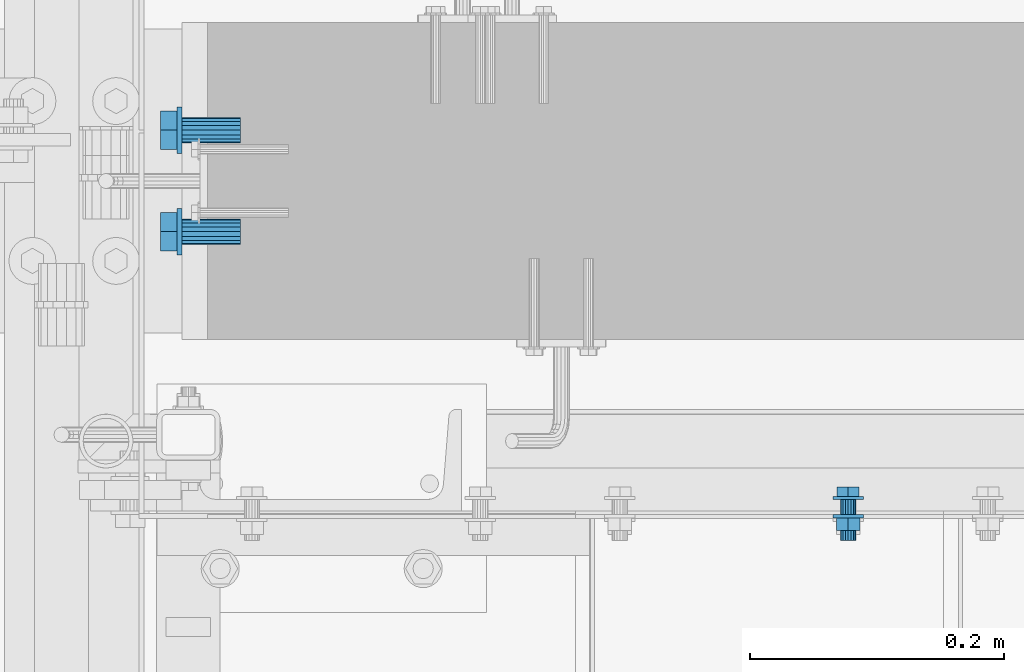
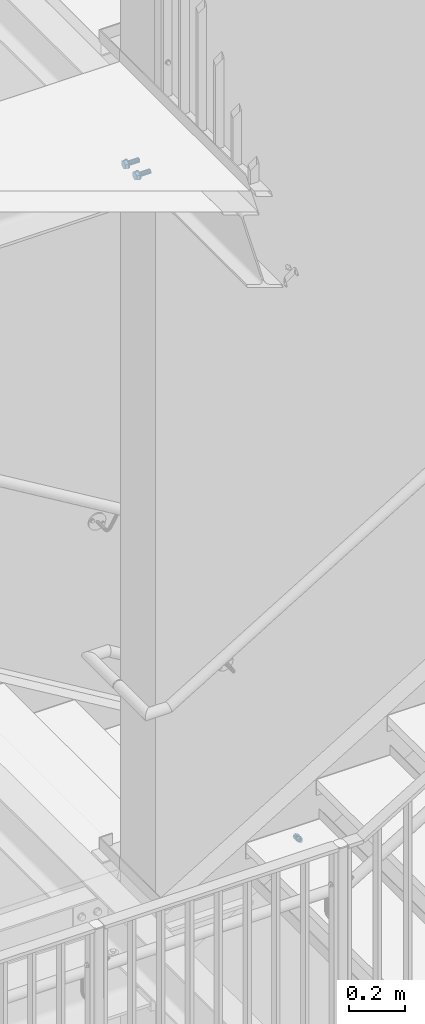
# One storey, part 223 of 410: 3 mechanical fasteners.
"""IFC2X3 building model written with IfcOpenShell, lengths in millimetres."""

from ifc_helpers import new_model, entity, si_unit, converted_unit, origin_with_axes, place, context, project, spatial, faceted_brep, element, save


model = new_model("IFC2X3")

# Units and contexts
model_context = context("Model", 3, precision=1e-09, world=origin_with_axes())
ifc_project = project(units=[si_unit("LENGTHUNIT", "METRE", prefix="MILLI"), si_unit("AREAUNIT", "SQUARE_METRE"), si_unit("VOLUMEUNIT", "CUBIC_METRE"), converted_unit("PLANEANGLEUNIT", "DEGREE", entity("IfcPlaneAngleMeasure", 0.01745329), si_unit("PLANEANGLEUNIT", "RADIAN"), dimensions=[0, 0, 0, 0, 0, 0, 0])], contexts=[model_context])

# Site, building, storey
site_placement = place(None, origin_with_axes())
site = spatial("IfcSite", under=ifc_project, at=site_placement, Name="mKR Teilneubau & Sanierung BA1 - Ostfildern", CompositionType="ELEMENT")
building_placement = place(site_placement, origin_with_axes())
building = spatial("IfcBuilding", under=site, at=building_placement, Name="Struktur 1", CompositionType="ELEMENT")
storey_placement = place(building_placement, origin_with_axes())
storey = spatial("IfcBuildingStorey", under=building, at=storey_placement, Name="Default Storey", CompositionType="ELEMENT", Elevation=0.0)

# Mechanical fasteners
mechanical_fastener_1_placement = place(None, origin_with_axes())
element("IfcMechanicalFastener", 1, at=mechanical_fastener_1_placement, inside=storey, ObjectType="Bolt", NominalDiameter=12.0, NominalLength=35.0, context=model_context, shape_type="Brep", body=[
    faceted_brep([(-1212.0, 16731.499999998, 4120.0), (-1212.0, 16728.999999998, 4120.0), (-1211.769423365, 16728.999999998, 4122.341083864), (-1211.769423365, 16731.499999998, 4122.341083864), (-1211.08655439, 16728.999999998, 4124.592201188), (-1211.08655439, 16731.499999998, 4124.592201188), (-1209.977635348, 16728.999999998, 4126.666842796), (-1209.977635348, 16731.499999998, 4126.666842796), (-1208.485281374, 16728.999999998, 4128.485281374), (-1208.485281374, 16731.499999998, 4128.485281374), (-1206.666842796, 16728.999999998, 4129.977635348), (-1206.666842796, 16731.499999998, 4129.977635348), (-1204.592201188, 16728.999999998, 4131.08655439), (-1204.592201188, 16731.499999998, 4131.08655439), (-1202.341083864, 16728.999999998, 4131.769423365), (-1202.341083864, 16731.499999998, 4131.769423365), (-1200.0, 16728.999999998, 4132.0), (-1200.0, 16731.499999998, 4132.0), (-1197.658916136, 16728.999999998, 4131.769423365), (-1197.658916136, 16731.499999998, 4131.769423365), (-1195.407798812, 16728.999999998, 4131.08655439), (-1195.407798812, 16731.499999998, 4131.08655439), (-1193.333157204, 16728.999999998, 4129.977635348), (-1193.333157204, 16731.499999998, 4129.977635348), (-1191.514718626, 16728.999999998, 4128.485281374), (-1191.514718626, 16731.499999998, 4128.485281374), (-1190.022364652, 16728.999999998, 4126.666842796), (-1190.022364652, 16731.499999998, 4126.666842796), (-1188.91344561, 16728.999999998, 4124.592201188), (-1188.91344561, 16731.499999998, 4124.592201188), (-1188.230576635, 16728.999999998, 4122.341083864), (-1188.230576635, 16731.499999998, 4122.341083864), (-1188.0, 16728.999999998, 4120.0), (-1188.0, 16731.499999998, 4120.0), (-1188.230576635, 16728.999999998, 4117.658916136), (-1188.230576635, 16731.499999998, 4117.658916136), (-1188.91344561, 16728.999999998, 4115.407798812), (-1188.91344561, 16731.499999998, 4115.407798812), (-1190.022364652, 16728.999999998, 4113.333157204), (-1190.022364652, 16731.499999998, 4113.333157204), (-1191.514718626, 16728.999999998, 4111.514718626), (-1191.514718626, 16731.499999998, 4111.514718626), (-1193.333157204, 16728.999999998, 4110.022364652), (-1193.333157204, 16731.499999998, 4110.022364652), (-1195.407798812, 16728.999999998, 4108.91344561), (-1195.407798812, 16731.499999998, 4108.91344561), (-1197.658916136, 16728.999999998, 4108.230576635), (-1197.658916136, 16731.499999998, 4108.230576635), (-1200.0, 16728.999999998, 4108.0), (-1200.0, 16731.499999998, 4108.0), (-1202.341083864, 16728.999999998, 4108.230576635), (-1202.341083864, 16731.499999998, 4108.230576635), (-1204.592201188, 16728.999999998, 4108.91344561), (-1204.592201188, 16731.499999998, 4108.91344561), (-1206.666842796, 16728.999999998, 4110.022364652), (-1206.666842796, 16731.499999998, 4110.022364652), (-1208.485281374, 16728.999999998, 4111.514718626), (-1208.485281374, 16731.499999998, 4111.514718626), (-1209.977635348, 16728.999999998, 4113.333157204), (-1209.977635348, 16731.499999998, 4113.333157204), (-1211.08655439, 16728.999999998, 4115.407798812), (-1211.08655439, 16731.499999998, 4115.407798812), (-1211.769423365, 16728.999999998, 4117.658916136), (-1211.769423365, 16731.499999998, 4117.658916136)], [[[0, 1, 2, 3]], [[3, 2, 4, 5]], [[5, 4, 6, 7]], [[7, 6, 8, 9]], [[9, 8, 10, 11]], [[11, 10, 12, 13]], [[13, 12, 14, 15]], [[15, 14, 16, 17]], [[17, 16, 18, 19]], [[19, 18, 20, 21]], [[21, 20, 22, 23]], [[23, 22, 24, 25]], [[25, 24, 26, 27]], [[27, 26, 28, 29]], [[29, 28, 30, 31]], [[31, 30, 32, 33]], [[33, 32, 34, 35]], [[35, 34, 36, 37]], [[37, 36, 38, 39]], [[39, 38, 40, 41]], [[41, 40, 42, 43]], [[43, 42, 44, 45]], [[45, 44, 46, 47]], [[47, 46, 48, 49]], [[49, 48, 50, 51]], [[51, 50, 52, 53]], [[53, 52, 54, 55]], [[55, 54, 56, 57]], [[57, 56, 58, 59]], [[59, 58, 60, 61]], [[61, 60, 62, 63]], [[63, 62, 1, 0]], [[0, 3, 5, 7, 9, 11, 13, 15, 17, 19, 21, 23, 25, 27, 29, 31, 33, 35, 37, 39, 41, 43, 45, 47, 49, 51, 53, 55, 57, 59, 61, 63]], [[1, 62, 60, 58, 56, 54, 52, 50, 48, 46, 44, 42, 40, 38, 36, 34, 32, 30, 28, 26, 24, 22, 20, 18, 16, 14, 12, 10, 8, 6, 4, 2]]]),
    faceted_brep([(-1191.326755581, 16731.499999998, 4125.0075), (-1191.326755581, 16738.999999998, 4125.0075), (-1200.0, 16738.999999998, 4130.015), (-1200.0, 16731.499999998, 4130.015), (-1208.673244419, 16738.999999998, 4125.0075), (-1208.673244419, 16731.499999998, 4125.0075), (-1208.673244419, 16738.999999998, 4114.9925), (-1208.673244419, 16731.499999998, 4114.9925), (-1200.0, 16738.999999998, 4109.985), (-1200.0, 16731.499999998, 4109.985), (-1191.326755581, 16738.999999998, 4114.9925), (-1191.326755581, 16731.499999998, 4114.9925)], [[[0, 1, 2, 3]], [[3, 2, 4, 5]], [[5, 4, 6, 7]], [[7, 6, 8, 9]], [[9, 8, 10, 11]], [[11, 10, 1, 0]], [[4, 2, 1, 10, 8, 6]], [[0, 3, 5, 7, 9, 11]]]),
    faceted_brep([(-1206.0, 16728.999999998, 4120.0), (-1206.0, 16716.999999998, 4120.0), (-1205.543277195, 16716.999999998, 4122.296100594), (-1205.543277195, 16728.999999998, 4122.296100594), (-1204.242640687, 16716.999999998, 4124.242640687), (-1204.242640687, 16728.999999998, 4124.242640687), (-1202.296100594, 16716.999999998, 4125.543277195), (-1202.296100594, 16728.999999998, 4125.543277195), (-1200.0, 16716.999999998, 4126.0), (-1200.0, 16728.999999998, 4126.0), (-1197.703899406, 16716.999999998, 4125.543277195), (-1197.703899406, 16728.999999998, 4125.543277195), (-1195.757359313, 16716.999999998, 4124.242640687), (-1195.757359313, 16728.999999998, 4124.242640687), (-1194.456722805, 16716.999999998, 4122.296100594), (-1194.456722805, 16728.999999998, 4122.296100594), (-1194.0, 16716.999999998, 4120.0), (-1194.0, 16728.999999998, 4120.0), (-1194.456722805, 16716.999999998, 4117.703899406), (-1194.456722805, 16728.999999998, 4117.703899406), (-1195.757359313, 16716.999999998, 4115.757359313), (-1195.757359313, 16728.999999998, 4115.757359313), (-1197.703899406, 16716.999999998, 4114.456722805), (-1197.703899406, 16728.999999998, 4114.456722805), (-1200.0, 16716.999999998, 4114.0), (-1200.0, 16728.999999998, 4114.0), (-1202.296100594, 16716.999999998, 4114.456722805), (-1202.296100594, 16728.999999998, 4114.456722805), (-1204.242640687, 16716.999999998, 4115.757359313), (-1204.242640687, 16728.999999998, 4115.757359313), (-1205.543277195, 16716.999999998, 4117.703899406), (-1205.543277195, 16728.999999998, 4117.703899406)], [[[0, 1, 2, 3]], [[3, 2, 4, 5]], [[5, 4, 6, 7]], [[7, 6, 8, 9]], [[9, 8, 10, 11]], [[11, 10, 12, 13]], [[13, 12, 14, 15]], [[15, 14, 16, 17]], [[17, 16, 18, 19]], [[19, 18, 20, 21]], [[21, 20, 22, 23]], [[23, 22, 24, 25]], [[25, 24, 26, 27]], [[27, 26, 28, 29]], [[29, 28, 30, 31]], [[31, 30, 1, 0]], [[0, 3, 5, 7, 9, 11, 13, 15, 17, 19, 21, 23, 25, 27, 29, 31]], [[1, 30, 28, 26, 24, 22, 20, 18, 16, 14, 12, 10, 8, 6, 4, 2]]]),
    faceted_brep([(-1212.0, 16716.999999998, 4120.0), (-1212.0, 16714.499999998, 4120.0), (-1211.769423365, 16714.499999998, 4122.341083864), (-1211.769423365, 16716.999999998, 4122.341083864), (-1211.08655439, 16714.499999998, 4124.592201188), (-1211.08655439, 16716.999999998, 4124.592201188), (-1209.977635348, 16714.499999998, 4126.666842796), (-1209.977635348, 16716.999999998, 4126.666842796), (-1208.485281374, 16714.499999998, 4128.485281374), (-1208.485281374, 16716.999999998, 4128.485281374), (-1206.666842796, 16714.499999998, 4129.977635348), (-1206.666842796, 16716.999999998, 4129.977635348), (-1204.592201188, 16714.499999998, 4131.08655439), (-1204.592201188, 16716.999999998, 4131.08655439), (-1202.341083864, 16714.499999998, 4131.769423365), (-1202.341083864, 16716.999999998, 4131.769423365), (-1200.0, 16714.499999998, 4132.0), (-1200.0, 16716.999999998, 4132.0), (-1197.658916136, 16714.499999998, 4131.769423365), (-1197.658916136, 16716.999999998, 4131.769423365), (-1195.407798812, 16714.499999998, 4131.08655439), (-1195.407798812, 16716.999999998, 4131.08655439), (-1193.333157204, 16714.499999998, 4129.977635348), (-1193.333157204, 16716.999999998, 4129.977635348), (-1191.514718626, 16714.499999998, 4128.485281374), (-1191.514718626, 16716.999999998, 4128.485281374), (-1190.022364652, 16714.499999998, 4126.666842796), (-1190.022364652, 16716.999999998, 4126.666842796), (-1188.91344561, 16714.499999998, 4124.592201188), (-1188.91344561, 16716.999999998, 4124.592201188), (-1188.230576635, 16714.499999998, 4122.341083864), (-1188.230576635, 16716.999999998, 4122.341083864), (-1188.0, 16714.499999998, 4120.0), (-1188.0, 16716.999999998, 4120.0), (-1188.230576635, 16714.499999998, 4117.658916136), (-1188.230576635, 16716.999999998, 4117.658916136), (-1188.91344561, 16714.499999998, 4115.407798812), (-1188.91344561, 16716.999999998, 4115.407798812), (-1190.022364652, 16714.499999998, 4113.333157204), (-1190.022364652, 16716.999999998, 4113.333157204), (-1191.514718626, 16714.499999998, 4111.514718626), (-1191.514718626, 16716.999999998, 4111.514718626), (-1193.333157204, 16714.499999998, 4110.022364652), (-1193.333157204, 16716.999999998, 4110.022364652), (-1195.407798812, 16714.499999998, 4108.91344561), (-1195.407798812, 16716.999999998, 4108.91344561), (-1197.658916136, 16714.499999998, 4108.230576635), (-1197.658916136, 16716.999999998, 4108.230576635), (-1200.0, 16714.499999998, 4108.0), (-1200.0, 16716.999999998, 4108.0), (-1202.341083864, 16714.499999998, 4108.230576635), (-1202.341083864, 16716.999999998, 4108.230576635), (-1204.592201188, 16714.499999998, 4108.91344561), (-1204.592201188, 16716.999999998, 4108.91344561), (-1206.666842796, 16714.499999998, 4110.022364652), (-1206.666842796, 16716.999999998, 4110.022364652), (-1208.485281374, 16714.499999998, 4111.514718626), (-1208.485281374, 16716.999999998, 4111.514718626), (-1209.977635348, 16714.499999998, 4113.333157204), (-1209.977635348, 16716.999999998, 4113.333157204), (-1211.08655439, 16714.499999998, 4115.407798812), (-1211.08655439, 16716.999999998, 4115.407798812), (-1211.769423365, 16714.499999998, 4117.658916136), (-1211.769423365, 16716.999999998, 4117.658916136)], [[[0, 1, 2, 3]], [[3, 2, 4, 5]], [[5, 4, 6, 7]], [[7, 6, 8, 9]], [[9, 8, 10, 11]], [[11, 10, 12, 13]], [[13, 12, 14, 15]], [[15, 14, 16, 17]], [[17, 16, 18, 19]], [[19, 18, 20, 21]], [[21, 20, 22, 23]], [[23, 22, 24, 25]], [[25, 24, 26, 27]], [[27, 26, 28, 29]], [[29, 28, 30, 31]], [[31, 30, 32, 33]], [[33, 32, 34, 35]], [[35, 34, 36, 37]], [[37, 36, 38, 39]], [[39, 38, 40, 41]], [[41, 40, 42, 43]], [[43, 42, 44, 45]], [[45, 44, 46, 47]], [[47, 46, 48, 49]], [[49, 48, 50, 51]], [[51, 50, 52, 53]], [[53, 52, 54, 55]], [[55, 54, 56, 57]], [[57, 56, 58, 59]], [[59, 58, 60, 61]], [[61, 60, 62, 63]], [[63, 62, 1, 0]], [[0, 3, 5, 7, 9, 11, 13, 15, 17, 19, 21, 23, 25, 27, 29, 31, 33, 35, 37, 39, 41, 43, 45, 47, 49, 51, 53, 55, 57, 59, 61, 63]], [[1, 62, 60, 58, 56, 54, 52, 50, 48, 46, 44, 42, 40, 38, 36, 34, 32, 30, 28, 26, 24, 22, 20, 18, 16, 14, 12, 10, 8, 6, 4, 2]]]),
    faceted_brep([(-1190.86343199, 16704.499999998, 4125.275), (-1190.86343199, 16714.499999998, 4125.275), (-1200.0, 16714.499999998, 4130.55), (-1200.0, 16704.499999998, 4130.55), (-1209.13656801, 16714.499999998, 4125.275), (-1209.13656801, 16704.499999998, 4125.275), (-1209.13656801, 16714.499999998, 4114.725), (-1209.13656801, 16704.499999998, 4114.725), (-1200.0, 16714.499999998, 4109.45), (-1200.0, 16704.499999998, 4109.45), (-1190.86343199, 16714.499999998, 4114.725), (-1190.86343199, 16704.499999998, 4114.725)], [[[0, 1, 2, 3]], [[3, 2, 4, 5]], [[5, 4, 6, 7]], [[7, 6, 8, 9]], [[9, 8, 10, 11]], [[11, 10, 1, 0]], [[4, 2, 1, 10, 8, 6]], [[0, 3, 5, 7, 9, 11]]]),
    faceted_brep([(-1206.0, 16704.499999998, 4120.0), (-1206.0, 16696.499999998, 4120.0), (-1205.543277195, 16696.499999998, 4122.296100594), (-1205.543277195, 16704.499999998, 4122.296100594), (-1204.242640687, 16696.499999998, 4124.242640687), (-1204.242640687, 16704.499999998, 4124.242640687), (-1202.296100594, 16696.499999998, 4125.543277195), (-1202.296100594, 16704.499999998, 4125.543277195), (-1200.0, 16696.499999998, 4126.0), (-1200.0, 16704.499999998, 4126.0), (-1197.703899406, 16696.499999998, 4125.543277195), (-1197.703899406, 16704.499999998, 4125.543277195), (-1195.757359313, 16696.499999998, 4124.242640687), (-1195.757359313, 16704.499999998, 4124.242640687), (-1194.456722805, 16696.499999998, 4122.296100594), (-1194.456722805, 16704.499999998, 4122.296100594), (-1194.0, 16696.499999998, 4120.0), (-1194.0, 16704.499999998, 4120.0), (-1194.456722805, 16696.499999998, 4117.703899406), (-1194.456722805, 16704.499999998, 4117.703899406), (-1195.757359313, 16696.499999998, 4115.757359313), (-1195.757359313, 16704.499999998, 4115.757359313), (-1197.703899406, 16696.499999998, 4114.456722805), (-1197.703899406, 16704.499999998, 4114.456722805), (-1200.0, 16696.499999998, 4114.0), (-1200.0, 16704.499999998, 4114.0), (-1202.296100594, 16696.499999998, 4114.456722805), (-1202.296100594, 16704.499999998, 4114.456722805), (-1204.242640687, 16696.499999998, 4115.757359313), (-1204.242640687, 16704.499999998, 4115.757359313), (-1205.543277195, 16696.499999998, 4117.703899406), (-1205.543277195, 16704.499999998, 4117.703899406)], [[[0, 1, 2, 3]], [[3, 2, 4, 5]], [[5, 4, 6, 7]], [[7, 6, 8, 9]], [[9, 8, 10, 11]], [[11, 10, 12, 13]], [[13, 12, 14, 15]], [[15, 14, 16, 17]], [[17, 16, 18, 19]], [[19, 18, 20, 21]], [[21, 20, 22, 23]], [[23, 22, 24, 25]], [[25, 24, 26, 27]], [[27, 26, 28, 29]], [[29, 28, 30, 31]], [[31, 30, 1, 0]], [[0, 3, 5, 7, 9, 11, 13, 15, 17, 19, 21, 23, 25, 27, 29, 31]], [[1, 30, 28, 26, 24, 22, 20, 18, 16, 14, 12, 10, 8, 6, 4, 2]]]),
])
mechanical_fastener_2_placement = place(None, origin_with_axes())
element("IfcMechanicalFastener", 2, at=mechanical_fastener_2_placement, inside=storey, ObjectType="-", NominalDiameter=20.0, NominalLength=50.0, context=model_context, shape_type="Brep", body=[
    faceted_brep([(-1729.0, 17038.5, 7045.0), (-1725.0, 17038.5, 7045.0), (-1725.0, 17038.144527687, 7041.390829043), (-1729.0, 17038.144527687, 7041.390829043), (-1725.0, 17037.091771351, 7037.920356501), (-1729.0, 17037.091771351, 7037.920356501), (-1725.0, 17035.382187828, 7034.721950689), (-1729.0, 17035.382187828, 7034.721950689), (-1725.0, 17033.081475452, 7031.918524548), (-1729.0, 17033.081475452, 7031.918524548), (-1725.0, 17030.278049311, 7029.617812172), (-1729.0, 17030.278049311, 7029.617812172), (-1725.0, 17027.079643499, 7027.908228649), (-1729.0, 17027.079643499, 7027.908228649), (-1725.0, 17023.609170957, 7026.855472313), (-1729.0, 17023.609170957, 7026.855472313), (-1725.0, 17020.0, 7026.5), (-1729.0, 17020.0, 7026.5), (-1725.0, 17016.390829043, 7026.855472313), (-1729.0, 17016.390829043, 7026.855472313), (-1725.0, 17012.920356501, 7027.908228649), (-1729.0, 17012.920356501, 7027.908228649), (-1725.0, 17009.721950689, 7029.617812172), (-1729.0, 17009.721950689, 7029.617812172), (-1725.0, 17006.918524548, 7031.918524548), (-1729.0, 17006.918524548, 7031.918524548), (-1725.0, 17004.617812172, 7034.721950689), (-1729.0, 17004.617812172, 7034.721950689), (-1725.0, 17002.908228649, 7037.920356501), (-1729.0, 17002.908228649, 7037.920356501), (-1725.0, 17001.855472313, 7041.390829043), (-1729.0, 17001.855472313, 7041.390829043), (-1725.0, 17001.5, 7045.0), (-1729.0, 17001.5, 7045.0), (-1725.0, 17001.855472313, 7048.609170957), (-1729.0, 17001.855472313, 7048.609170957), (-1725.0, 17002.908228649, 7052.079643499), (-1729.0, 17002.908228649, 7052.079643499), (-1725.0, 17004.617812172, 7055.278049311), (-1729.0, 17004.617812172, 7055.278049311), (-1725.0, 17006.918524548, 7058.081475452), (-1729.0, 17006.918524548, 7058.081475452), (-1725.0, 17009.721950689, 7060.382187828), (-1729.0, 17009.721950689, 7060.382187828), (-1725.0, 17012.920356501, 7062.091771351), (-1729.0, 17012.920356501, 7062.091771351), (-1725.0, 17016.390829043, 7063.144527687), (-1729.0, 17016.390829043, 7063.144527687), (-1725.0, 17020.0, 7063.5), (-1729.0, 17020.0, 7063.5), (-1725.0, 17023.609170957, 7063.144527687), (-1729.0, 17023.609170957, 7063.144527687), (-1725.0, 17027.079643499, 7062.091771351), (-1729.0, 17027.079643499, 7062.091771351), (-1725.0, 17030.278049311, 7060.382187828), (-1729.0, 17030.278049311, 7060.382187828), (-1725.0, 17033.081475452, 7058.081475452), (-1729.0, 17033.081475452, 7058.081475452), (-1725.0, 17035.382187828, 7055.278049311), (-1729.0, 17035.382187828, 7055.278049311), (-1725.0, 17037.091771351, 7052.079643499), (-1729.0, 17037.091771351, 7052.079643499), (-1725.0, 17038.144527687, 7048.609170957), (-1729.0, 17038.144527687, 7048.609170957)], [[[0, 1, 2, 3]], [[3, 2, 4, 5]], [[5, 4, 6, 7]], [[7, 6, 8, 9]], [[9, 8, 10, 11]], [[11, 10, 12, 13]], [[13, 12, 14, 15]], [[15, 14, 16, 17]], [[17, 16, 18, 19]], [[19, 18, 20, 21]], [[21, 20, 22, 23]], [[23, 22, 24, 25]], [[25, 24, 26, 27]], [[27, 26, 28, 29]], [[29, 28, 30, 31]], [[31, 30, 32, 33]], [[33, 32, 34, 35]], [[35, 34, 36, 37]], [[37, 36, 38, 39]], [[39, 38, 40, 41]], [[41, 40, 42, 43]], [[43, 42, 44, 45]], [[45, 44, 46, 47]], [[47, 46, 48, 49]], [[49, 48, 50, 51]], [[51, 50, 52, 53]], [[53, 52, 54, 55]], [[55, 54, 56, 57]], [[57, 56, 58, 59]], [[59, 58, 60, 61]], [[61, 60, 62, 63]], [[63, 62, 1, 0]], [[0, 3, 5, 7, 9, 11, 13, 15, 17, 19, 21, 23, 25, 27, 29, 31, 33, 35, 37, 39, 41, 43, 45, 47, 49, 51, 53, 55, 57, 59, 61, 63]], [[1, 62, 60, 58, 56, 54, 52, 50, 48, 46, 44, 42, 40, 38, 36, 34, 32, 30, 28, 26, 24, 22, 20, 18, 16, 14, 12, 10, 8, 6, 4, 2]]]),
    faceted_brep([(-1729.0, 17004.831565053, 7036.2425), (-1742.0, 17004.831565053, 7036.2425), (-1742.0, 17020.0, 7027.485), (-1729.0, 17020.0, 7027.485), (-1742.0, 17035.168434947, 7036.2425), (-1729.0, 17035.168434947, 7036.2425), (-1742.0, 17035.168434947, 7053.7575), (-1729.0, 17035.168434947, 7053.7575), (-1742.0, 17020.0, 7062.515), (-1729.0, 17020.0, 7062.515), (-1742.0, 17004.831565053, 7053.7575), (-1729.0, 17004.831565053, 7053.7575)], [[[0, 1, 2, 3]], [[3, 2, 4, 5]], [[5, 4, 6, 7]], [[7, 6, 8, 9]], [[9, 8, 10, 11]], [[11, 10, 1, 0]], [[4, 2, 1, 10, 8, 6]], [[0, 3, 5, 7, 9, 11]]]),
    faceted_brep([(-1725.0, 17030.0, 7045.0), (-1705.0, 17030.0, 7045.0), (-1705.0, 17029.238795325, 7041.173165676), (-1725.0, 17029.238795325, 7041.173165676), (-1705.0, 17027.071067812, 7037.928932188), (-1725.0, 17027.071067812, 7037.928932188), (-1705.0, 17023.826834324, 7035.761204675), (-1725.0, 17023.826834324, 7035.761204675), (-1705.0, 17020.0, 7035.0), (-1725.0, 17020.0, 7035.0), (-1705.0, 17016.173165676, 7035.761204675), (-1725.0, 17016.173165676, 7035.761204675), (-1705.0, 17012.928932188, 7037.928932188), (-1725.0, 17012.928932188, 7037.928932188), (-1705.0, 17010.761204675, 7041.173165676), (-1725.0, 17010.761204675, 7041.173165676), (-1705.0, 17010.0, 7045.0), (-1725.0, 17010.0, 7045.0), (-1705.0, 17010.761204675, 7048.826834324), (-1725.0, 17010.761204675, 7048.826834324), (-1705.0, 17012.928932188, 7052.071067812), (-1725.0, 17012.928932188, 7052.071067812), (-1705.0, 17016.173165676, 7054.238795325), (-1725.0, 17016.173165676, 7054.238795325), (-1705.0, 17020.0, 7055.0), (-1725.0, 17020.0, 7055.0), (-1705.0, 17023.826834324, 7054.238795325), (-1725.0, 17023.826834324, 7054.238795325), (-1705.0, 17027.071067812, 7052.071067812), (-1725.0, 17027.071067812, 7052.071067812), (-1705.0, 17029.238795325, 7048.826834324), (-1725.0, 17029.238795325, 7048.826834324)], [[[0, 1, 2, 3]], [[3, 2, 4, 5]], [[5, 4, 6, 7]], [[7, 6, 8, 9]], [[9, 8, 10, 11]], [[11, 10, 12, 13]], [[13, 12, 14, 15]], [[15, 14, 16, 17]], [[17, 16, 18, 19]], [[19, 18, 20, 21]], [[21, 20, 22, 23]], [[23, 22, 24, 25]], [[25, 24, 26, 27]], [[27, 26, 28, 29]], [[29, 28, 30, 31]], [[31, 30, 1, 0]], [[0, 3, 5, 7, 9, 11, 13, 15, 17, 19, 21, 23, 25, 27, 29, 31]], [[1, 30, 28, 26, 24, 22, 20, 18, 16, 14, 12, 10, 8, 6, 4, 2]]]),
    faceted_brep([(-1705.0, 17030.0, 7045.0), (-1679.0, 17030.0, 7045.0), (-1679.0, 17029.238795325, 7041.173165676), (-1705.0, 17029.238795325, 7041.173165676), (-1679.0, 17027.071067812, 7037.928932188), (-1705.0, 17027.071067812, 7037.928932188), (-1679.0, 17023.826834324, 7035.761204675), (-1705.0, 17023.826834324, 7035.761204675), (-1679.0, 17020.0, 7035.0), (-1705.0, 17020.0, 7035.0), (-1679.0, 17016.173165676, 7035.761204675), (-1705.0, 17016.173165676, 7035.761204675), (-1679.0, 17012.928932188, 7037.928932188), (-1705.0, 17012.928932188, 7037.928932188), (-1679.0, 17010.761204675, 7041.173165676), (-1705.0, 17010.761204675, 7041.173165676), (-1679.0, 17010.0, 7045.0), (-1705.0, 17010.0, 7045.0), (-1679.0, 17010.761204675, 7048.826834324), (-1705.0, 17010.761204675, 7048.826834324), (-1679.0, 17012.928932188, 7052.071067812), (-1705.0, 17012.928932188, 7052.071067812), (-1679.0, 17016.173165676, 7054.238795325), (-1705.0, 17016.173165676, 7054.238795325), (-1679.0, 17020.0, 7055.0), (-1705.0, 17020.0, 7055.0), (-1679.0, 17023.826834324, 7054.238795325), (-1705.0, 17023.826834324, 7054.238795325), (-1679.0, 17027.071067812, 7052.071067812), (-1705.0, 17027.071067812, 7052.071067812), (-1679.0, 17029.238795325, 7048.826834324), (-1705.0, 17029.238795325, 7048.826834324)], [[[0, 1, 2, 3]], [[3, 2, 4, 5]], [[5, 4, 6, 7]], [[7, 6, 8, 9]], [[9, 8, 10, 11]], [[11, 10, 12, 13]], [[13, 12, 14, 15]], [[15, 14, 16, 17]], [[17, 16, 18, 19]], [[19, 18, 20, 21]], [[21, 20, 22, 23]], [[23, 22, 24, 25]], [[25, 24, 26, 27]], [[27, 26, 28, 29]], [[29, 28, 30, 31]], [[31, 30, 1, 0]], [[0, 3, 5, 7, 9, 11, 13, 15, 17, 19, 21, 23, 25, 27, 29, 31]], [[1, 30, 28, 26, 24, 22, 20, 18, 16, 14, 12, 10, 8, 6, 4, 2]]]),
])
mechanical_fastener_3_placement = place(None, origin_with_axes())
element("IfcMechanicalFastener", 3, at=mechanical_fastener_3_placement, inside=storey, ObjectType="-", NominalDiameter=20.0, NominalLength=50.0, context=model_context, shape_type="Brep", body=[
    faceted_brep([(-1729.0, 16958.5, 7045.0), (-1725.0, 16958.5, 7045.0), (-1725.0, 16958.144527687, 7041.390829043), (-1729.0, 16958.144527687, 7041.390829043), (-1725.0, 16957.091771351, 7037.920356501), (-1729.0, 16957.091771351, 7037.920356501), (-1725.0, 16955.382187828, 7034.721950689), (-1729.0, 16955.382187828, 7034.721950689), (-1725.0, 16953.081475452, 7031.918524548), (-1729.0, 16953.081475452, 7031.918524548), (-1725.0, 16950.278049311, 7029.617812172), (-1729.0, 16950.278049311, 7029.617812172), (-1725.0, 16947.079643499, 7027.908228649), (-1729.0, 16947.079643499, 7027.908228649), (-1725.0, 16943.609170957, 7026.855472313), (-1729.0, 16943.609170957, 7026.855472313), (-1725.0, 16940.0, 7026.5), (-1729.0, 16940.0, 7026.5), (-1725.0, 16936.390829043, 7026.855472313), (-1729.0, 16936.390829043, 7026.855472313), (-1725.0, 16932.920356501, 7027.908228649), (-1729.0, 16932.920356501, 7027.908228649), (-1725.0, 16929.721950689, 7029.617812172), (-1729.0, 16929.721950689, 7029.617812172), (-1725.0, 16926.918524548, 7031.918524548), (-1729.0, 16926.918524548, 7031.918524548), (-1725.0, 16924.617812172, 7034.721950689), (-1729.0, 16924.617812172, 7034.721950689), (-1725.0, 16922.908228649, 7037.920356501), (-1729.0, 16922.908228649, 7037.920356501), (-1725.0, 16921.855472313, 7041.390829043), (-1729.0, 16921.855472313, 7041.390829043), (-1725.0, 16921.5, 7045.0), (-1729.0, 16921.5, 7045.0), (-1725.0, 16921.855472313, 7048.609170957), (-1729.0, 16921.855472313, 7048.609170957), (-1725.0, 16922.908228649, 7052.079643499), (-1729.0, 16922.908228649, 7052.079643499), (-1725.0, 16924.617812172, 7055.278049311), (-1729.0, 16924.617812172, 7055.278049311), (-1725.0, 16926.918524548, 7058.081475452), (-1729.0, 16926.918524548, 7058.081475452), (-1725.0, 16929.721950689, 7060.382187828), (-1729.0, 16929.721950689, 7060.382187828), (-1725.0, 16932.920356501, 7062.091771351), (-1729.0, 16932.920356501, 7062.091771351), (-1725.0, 16936.390829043, 7063.144527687), (-1729.0, 16936.390829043, 7063.144527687), (-1725.0, 16940.0, 7063.5), (-1729.0, 16940.0, 7063.5), (-1725.0, 16943.609170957, 7063.144527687), (-1729.0, 16943.609170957, 7063.144527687), (-1725.0, 16947.079643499, 7062.091771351), (-1729.0, 16947.079643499, 7062.091771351), (-1725.0, 16950.278049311, 7060.382187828), (-1729.0, 16950.278049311, 7060.382187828), (-1725.0, 16953.081475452, 7058.081475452), (-1729.0, 16953.081475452, 7058.081475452), (-1725.0, 16955.382187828, 7055.278049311), (-1729.0, 16955.382187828, 7055.278049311), (-1725.0, 16957.091771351, 7052.079643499), (-1729.0, 16957.091771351, 7052.079643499), (-1725.0, 16958.144527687, 7048.609170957), (-1729.0, 16958.144527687, 7048.609170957)], [[[0, 1, 2, 3]], [[3, 2, 4, 5]], [[5, 4, 6, 7]], [[7, 6, 8, 9]], [[9, 8, 10, 11]], [[11, 10, 12, 13]], [[13, 12, 14, 15]], [[15, 14, 16, 17]], [[17, 16, 18, 19]], [[19, 18, 20, 21]], [[21, 20, 22, 23]], [[23, 22, 24, 25]], [[25, 24, 26, 27]], [[27, 26, 28, 29]], [[29, 28, 30, 31]], [[31, 30, 32, 33]], [[33, 32, 34, 35]], [[35, 34, 36, 37]], [[37, 36, 38, 39]], [[39, 38, 40, 41]], [[41, 40, 42, 43]], [[43, 42, 44, 45]], [[45, 44, 46, 47]], [[47, 46, 48, 49]], [[49, 48, 50, 51]], [[51, 50, 52, 53]], [[53, 52, 54, 55]], [[55, 54, 56, 57]], [[57, 56, 58, 59]], [[59, 58, 60, 61]], [[61, 60, 62, 63]], [[63, 62, 1, 0]], [[0, 3, 5, 7, 9, 11, 13, 15, 17, 19, 21, 23, 25, 27, 29, 31, 33, 35, 37, 39, 41, 43, 45, 47, 49, 51, 53, 55, 57, 59, 61, 63]], [[1, 62, 60, 58, 56, 54, 52, 50, 48, 46, 44, 42, 40, 38, 36, 34, 32, 30, 28, 26, 24, 22, 20, 18, 16, 14, 12, 10, 8, 6, 4, 2]]]),
    faceted_brep([(-1729.0, 16924.831565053, 7036.2425), (-1742.0, 16924.831565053, 7036.2425), (-1742.0, 16940.0, 7027.485), (-1729.0, 16940.0, 7027.485), (-1742.0, 16955.168434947, 7036.2425), (-1729.0, 16955.168434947, 7036.2425), (-1742.0, 16955.168434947, 7053.7575), (-1729.0, 16955.168434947, 7053.7575), (-1742.0, 16940.0, 7062.515), (-1729.0, 16940.0, 7062.515), (-1742.0, 16924.831565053, 7053.7575), (-1729.0, 16924.831565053, 7053.7575)], [[[0, 1, 2, 3]], [[3, 2, 4, 5]], [[5, 4, 6, 7]], [[7, 6, 8, 9]], [[9, 8, 10, 11]], [[11, 10, 1, 0]], [[4, 2, 1, 10, 8, 6]], [[0, 3, 5, 7, 9, 11]]]),
    faceted_brep([(-1725.0, 16950.0, 7045.0), (-1705.0, 16950.0, 7045.0), (-1705.0, 16949.238795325, 7041.173165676), (-1725.0, 16949.238795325, 7041.173165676), (-1705.0, 16947.071067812, 7037.928932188), (-1725.0, 16947.071067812, 7037.928932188), (-1705.0, 16943.826834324, 7035.761204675), (-1725.0, 16943.826834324, 7035.761204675), (-1705.0, 16940.0, 7035.0), (-1725.0, 16940.0, 7035.0), (-1705.0, 16936.173165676, 7035.761204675), (-1725.0, 16936.173165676, 7035.761204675), (-1705.0, 16932.928932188, 7037.928932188), (-1725.0, 16932.928932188, 7037.928932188), (-1705.0, 16930.761204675, 7041.173165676), (-1725.0, 16930.761204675, 7041.173165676), (-1705.0, 16930.0, 7045.0), (-1725.0, 16930.0, 7045.0), (-1705.0, 16930.761204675, 7048.826834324), (-1725.0, 16930.761204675, 7048.826834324), (-1705.0, 16932.928932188, 7052.071067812), (-1725.0, 16932.928932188, 7052.071067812), (-1705.0, 16936.173165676, 7054.238795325), (-1725.0, 16936.173165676, 7054.238795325), (-1705.0, 16940.0, 7055.0), (-1725.0, 16940.0, 7055.0), (-1705.0, 16943.826834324, 7054.238795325), (-1725.0, 16943.826834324, 7054.238795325), (-1705.0, 16947.071067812, 7052.071067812), (-1725.0, 16947.071067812, 7052.071067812), (-1705.0, 16949.238795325, 7048.826834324), (-1725.0, 16949.238795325, 7048.826834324)], [[[0, 1, 2, 3]], [[3, 2, 4, 5]], [[5, 4, 6, 7]], [[7, 6, 8, 9]], [[9, 8, 10, 11]], [[11, 10, 12, 13]], [[13, 12, 14, 15]], [[15, 14, 16, 17]], [[17, 16, 18, 19]], [[19, 18, 20, 21]], [[21, 20, 22, 23]], [[23, 22, 24, 25]], [[25, 24, 26, 27]], [[27, 26, 28, 29]], [[29, 28, 30, 31]], [[31, 30, 1, 0]], [[0, 3, 5, 7, 9, 11, 13, 15, 17, 19, 21, 23, 25, 27, 29, 31]], [[1, 30, 28, 26, 24, 22, 20, 18, 16, 14, 12, 10, 8, 6, 4, 2]]]),
    faceted_brep([(-1705.0, 16950.0, 7045.0), (-1679.0, 16950.0, 7045.0), (-1679.0, 16949.238795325, 7041.173165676), (-1705.0, 16949.238795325, 7041.173165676), (-1679.0, 16947.071067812, 7037.928932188), (-1705.0, 16947.071067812, 7037.928932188), (-1679.0, 16943.826834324, 7035.761204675), (-1705.0, 16943.826834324, 7035.761204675), (-1679.0, 16940.0, 7035.0), (-1705.0, 16940.0, 7035.0), (-1679.0, 16936.173165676, 7035.761204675), (-1705.0, 16936.173165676, 7035.761204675), (-1679.0, 16932.928932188, 7037.928932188), (-1705.0, 16932.928932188, 7037.928932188), (-1679.0, 16930.761204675, 7041.173165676), (-1705.0, 16930.761204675, 7041.173165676), (-1679.0, 16930.0, 7045.0), (-1705.0, 16930.0, 7045.0), (-1679.0, 16930.761204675, 7048.826834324), (-1705.0, 16930.761204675, 7048.826834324), (-1679.0, 16932.928932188, 7052.071067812), (-1705.0, 16932.928932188, 7052.071067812), (-1679.0, 16936.173165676, 7054.238795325), (-1705.0, 16936.173165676, 7054.238795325), (-1679.0, 16940.0, 7055.0), (-1705.0, 16940.0, 7055.0), (-1679.0, 16943.826834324, 7054.238795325), (-1705.0, 16943.826834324, 7054.238795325), (-1679.0, 16947.071067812, 7052.071067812), (-1705.0, 16947.071067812, 7052.071067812), (-1679.0, 16949.238795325, 7048.826834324), (-1705.0, 16949.238795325, 7048.826834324)], [[[0, 1, 2, 3]], [[3, 2, 4, 5]], [[5, 4, 6, 7]], [[7, 6, 8, 9]], [[9, 8, 10, 11]], [[11, 10, 12, 13]], [[13, 12, 14, 15]], [[15, 14, 16, 17]], [[17, 16, 18, 19]], [[19, 18, 20, 21]], [[21, 20, 22, 23]], [[23, 22, 24, 25]], [[25, 24, 26, 27]], [[27, 26, 28, 29]], [[29, 28, 30, 31]], [[31, 30, 1, 0]], [[0, 3, 5, 7, 9, 11, 13, 15, 17, 19, 21, 23, 25, 27, 29, 31]], [[1, 30, 28, 26, 24, 22, 20, 18, 16, 14, 12, 10, 8, 6, 4, 2]]]),
])

save(model, "model.ifc")
